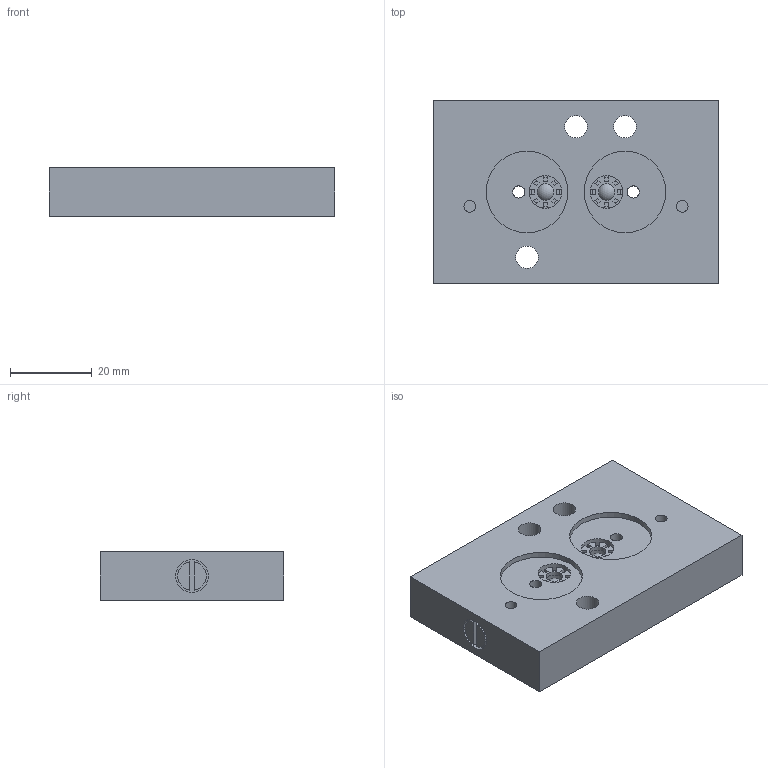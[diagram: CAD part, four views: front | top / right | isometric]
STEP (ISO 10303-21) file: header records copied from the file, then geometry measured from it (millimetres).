
FILE_DESCRIPTION(/* description */ (''),/* implementation_level */ '2;1');
FILE_NAME(/* name */ '86-4-DR-NAMUR.stp',/* time_stamp */ '2026-01-15T14:45:42+01:00',/* author */ ('Tschernatsch'),/* organization */ (''),/* preprocessor_version */ 'ST-DEVELOPER v20',/* originating_system */ 'Autodesk Inventor 2024',/* authorisation */ '');
FILE_SCHEMA (('AUTOMOTIVE_DESIGN { 1 0 10303 214 3 1 1 }'));
Length unit declared in the file: millimetre
Products named in the file (1): ASC-08B-¸-++ÏÍãÀº -Ôð+-
+
Bounding box: 70 x 45 x 12 mm (x, y, z)
Volume: 35348.7 mm3; surface area: 10717.7 mm2
Topology: 3 solids, 3 shells, 115 faces, 355 edges, 226 vertices
Faces by surface type: plane 90, cylinder 23, sphere 2
Full cylindrical faces by diameter (mm): 2.9 x2, 3 x4, 4 x2, 5.5 x3, 7 x2, 8 x4, 20 x2
Entity records: 4067 total; most frequent: ORIENTED_EDGE 702, DIRECTION 695, CARTESIAN_POINT 693, EDGE_CURVE 351, LINE 239, VECTOR 239, AXIS2_PLACEMENT_3D 228, VERTEX_POINT 226
